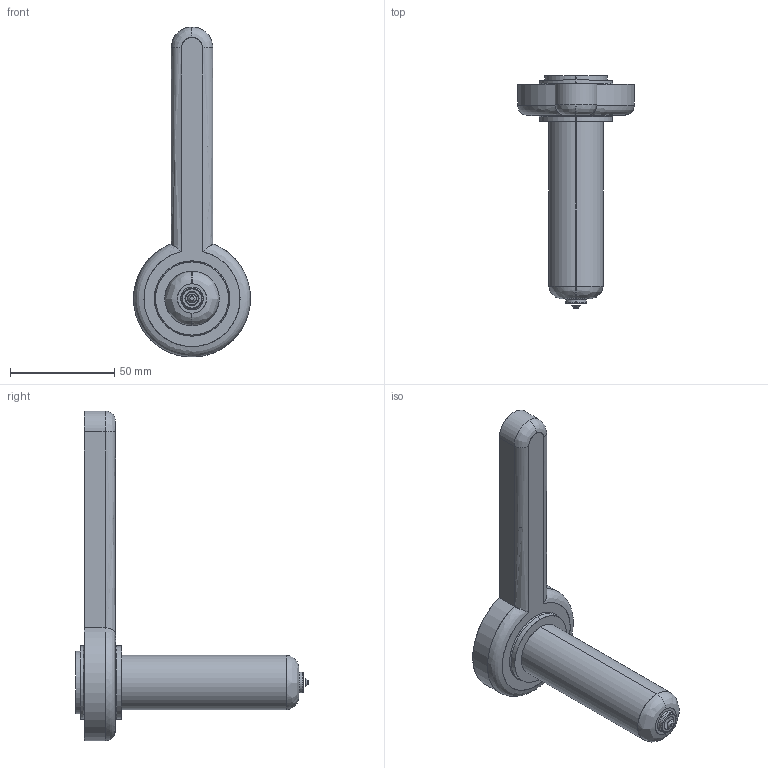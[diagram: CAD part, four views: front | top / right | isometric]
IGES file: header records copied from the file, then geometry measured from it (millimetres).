
Start section: SolidWorks IGES file using analytic representation for surfaces
Global section: file name: C:\Users\luca.EMPAD\Desktop\TEM\Sede UGEP3052-S-A C-89 L-109 Ød-2.0.IGS; native system: SolidWorks 2012; preprocessor: SolidWorks 2012; author: luca; date: 120402.151941; units: millimetre
Bounding box: 56 x 111.23 x 158 mm (x, y, z)
Surface area: 21194.1 mm2 (no closed solid volume)
Topology: 0 solids, 0 shells, 44 faces, 918 edges, 918 vertices
Faces by surface type: revolution 27, bspline 17
